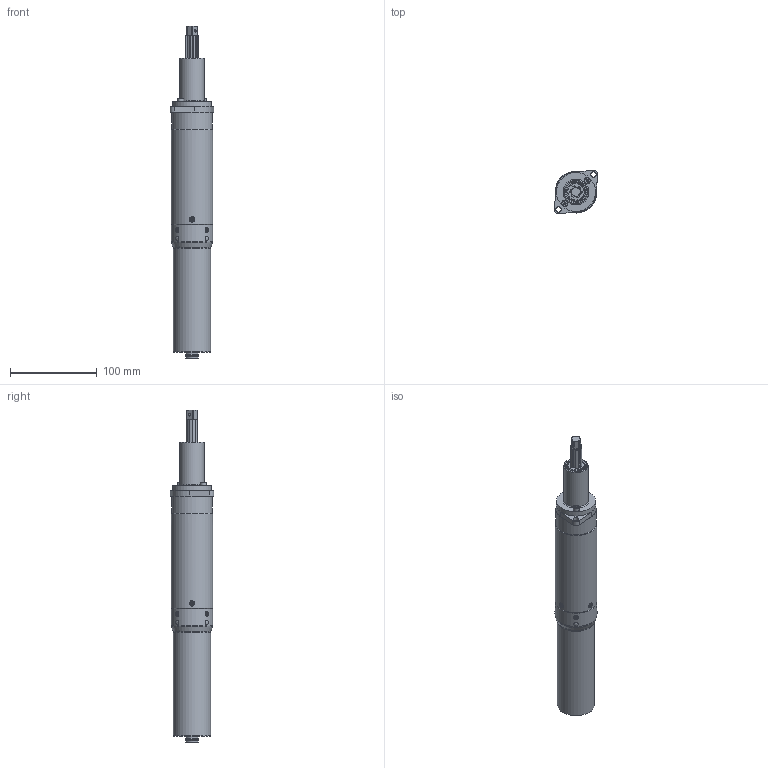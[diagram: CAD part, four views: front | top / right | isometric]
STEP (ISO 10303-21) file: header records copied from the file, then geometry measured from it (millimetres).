
FILE_DESCRIPTION (( 'STEP AP214' ), '1' );
FILE_NAME ('135120-KDS-PL20CA-FN.STEP', '2023-03-03T08:51:11', ( '' ), ( '' ), 'SwSTEP 2.0', 'SolidWorks 2022', '' );
FILE_SCHEMA (( 'AUTOMOTIVE_DESIGN' ));
Length unit declared in the file: millimetre
Products named in the file (1): 135120-KDS-PL20CA-FN
Bounding box: 50.29 x 50.29 x 383.15 mm (x, y, z)
Surface area: 64259.4 mm2 (no closed solid volume)
Topology: 0 solids, 26 shells, 272 faces, 907 edges, 630 vertices
Faces by surface type: cylinder 143, plane 72, cone 26, torus 25, bspline 6
Full cylindrical faces by diameter (mm): 1 x10, 2 x1, 2.5 x1, 3 x1, 5.1 x4, 5.5 x8, 6.2 x2, 7 x2, 11.8 x1, 12 x1, 14.85 x2, 16 x1, 18.75 x1, 22 x1, 28 x1, 43 x1, 45 x1, 47 x1, 48 x2
Entity records: 14176 total; most frequent: CARTESIAN_POINT 3620, DIRECTION 1696, ORIENTED_EDGE 1215, EDGE_CURVE 801, AXIS2_PLACEMENT_3D 705, VERTEX_POINT 611, EDGE_LOOP 440, CIRCLE 439
